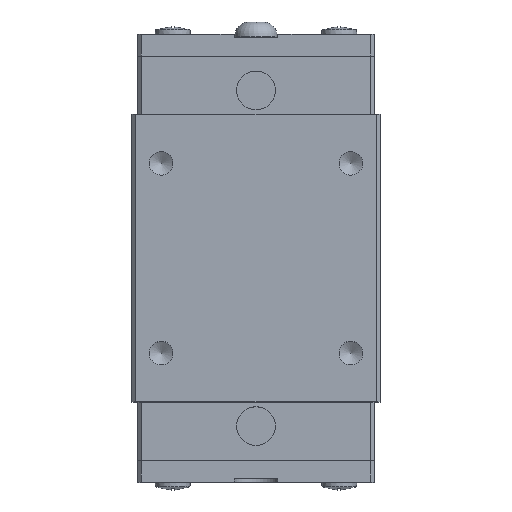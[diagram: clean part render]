
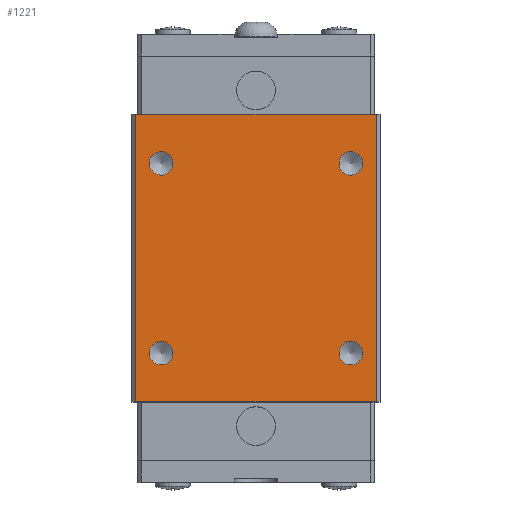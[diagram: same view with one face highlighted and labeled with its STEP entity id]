
A CAD part, top view. The second image highlights one B-rep face of the part: STEP entity #1221.
In plain terms, the highlighted planar face has unit normal (0, 0, 1).
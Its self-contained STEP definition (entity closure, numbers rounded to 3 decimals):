
#1221=ADVANCED_FACE('',(#3047,#3049,#3051,#3053,#3055),#3057,.T.);
#3047=FACE_BOUND('',#3048,.T.);
#3048=EDGE_LOOP('',(#4622,#4623,#4624,#4625));
#3049=FACE_BOUND('',#3050,.T.);
#3050=EDGE_LOOP('',(#4626));
#3051=FACE_BOUND('',#3052,.T.);
#3052=EDGE_LOOP('',(#4627));
#3053=FACE_BOUND('',#3054,.T.);
#3054=EDGE_LOOP('',(#4628));
#3055=FACE_BOUND('',#3056,.T.);
#3056=EDGE_LOOP('',(#4629));
#3057=PLANE('',#3058);
#3058=AXIS2_PLACEMENT_3D('',#3059,#3060,#3061);
#3059=CARTESIAN_POINT('',(0.,50.401,28.));
#3060=DIRECTION('',(0.,0.,1.));
#3061=DIRECTION('',(-1.,0.,-0.));
#4622=ORIENTED_EDGE('',*,*,#5499,.F.);
#4623=ORIENTED_EDGE('',*,*,#5548,.T.);
#4624=ORIENTED_EDGE('',*,*,#5485,.T.);
#4625=ORIENTED_EDGE('',*,*,#5547,.F.);
#4626=ORIENTED_EDGE('',*,*,#5549,.T.);
#4627=ORIENTED_EDGE('',*,*,#5550,.T.);
#4628=ORIENTED_EDGE('',*,*,#5551,.T.);
#4629=ORIENTED_EDGE('',*,*,#5552,.T.);
#5485=EDGE_CURVE('',#6315,#6313,#6316,.T.);
#5499=EDGE_CURVE('',#6340,#6342,#6343,.T.);
#5547=EDGE_CURVE('',#6342,#6313,#6419,.T.);
#5548=EDGE_CURVE('',#6340,#6315,#6420,.T.);
#5549=EDGE_CURVE('',#6421,#6421,#6422,.T.);
#5550=EDGE_CURVE('',#6423,#6423,#6424,.T.);
#5551=EDGE_CURVE('',#6425,#6425,#6426,.T.);
#5552=EDGE_CURVE('',#6427,#6427,#6428,.T.);
#6313=VERTEX_POINT('',#8031);
#6315=VERTEX_POINT('',#8035);
#6316=LINE('',#8036,#8037);
#6340=VERTEX_POINT('',#8089);
#6342=VERTEX_POINT('',#8093);
#6343=LINE('',#8094,#8095);
#6419=LINE('',#8473,#8474);
#6420=LINE('',#8476,#8477);
#6421=VERTEX_POINT('',#8479);
#6422=CIRCLE('',#8480,1.621);
#6423=VERTEX_POINT('',#8484);
#6424=CIRCLE('',#8485,1.621);
#6425=VERTEX_POINT('',#8489);
#6426=CIRCLE('',#8490,1.621);
#6427=VERTEX_POINT('',#8494);
#6428=CIRCLE('',#8495,1.621);
#8031=CARTESIAN_POINT('',(16.5,11.001,28.));
#8035=CARTESIAN_POINT('',(-16.5,11.001,28.));
#8036=CARTESIAN_POINT('',(-16.5,11.001,28.));
#8037=VECTOR('',#8038,1.);
#8038=DIRECTION('',(1.,0.,0.));
#8089=CARTESIAN_POINT('',(-16.5,50.401,28.));
#8093=CARTESIAN_POINT('',(16.5,50.401,28.));
#8094=CARTESIAN_POINT('',(-16.5,50.401,28.));
#8095=VECTOR('',#8096,1.);
#8096=DIRECTION('',(1.,0.,0.));
#8473=CARTESIAN_POINT('',(16.5,50.401,28.));
#8474=VECTOR('',#8475,1.);
#8475=DIRECTION('',(0.,-1.,0.));
#8476=CARTESIAN_POINT('',(-16.5,50.401,28.));
#8477=VECTOR('',#8478,1.);
#8478=DIRECTION('',(0.,-1.,0.));
#8479=CARTESIAN_POINT('',(11.379,43.701,28.));
#8480=AXIS2_PLACEMENT_3D('',#8481,#8482,#8483);
#8481=CARTESIAN_POINT('',(13.,43.701,28.));
#8482=DIRECTION('',(-0.,-0.,-1.));
#8483=DIRECTION('',(-1.,0.,0.));
#8484=CARTESIAN_POINT('',(-11.379,17.701,28.));
#8485=AXIS2_PLACEMENT_3D('',#8486,#8487,#8488);
#8486=CARTESIAN_POINT('',(-13.,17.701,28.));
#8487=DIRECTION('',(-0.,-0.,-1.));
#8488=DIRECTION('',(1.,0.,0.));
#8489=CARTESIAN_POINT('',(14.621,17.701,28.));
#8490=AXIS2_PLACEMENT_3D('',#8491,#8492,#8493);
#8491=CARTESIAN_POINT('',(13.,17.701,28.));
#8492=DIRECTION('',(-0.,-0.,-1.));
#8493=DIRECTION('',(1.,0.,0.));
#8494=CARTESIAN_POINT('',(-14.621,43.701,28.));
#8495=AXIS2_PLACEMENT_3D('',#8496,#8497,#8498);
#8496=CARTESIAN_POINT('',(-13.,43.701,28.));
#8497=DIRECTION('',(-0.,-0.,-1.));
#8498=DIRECTION('',(-1.,0.,0.));
